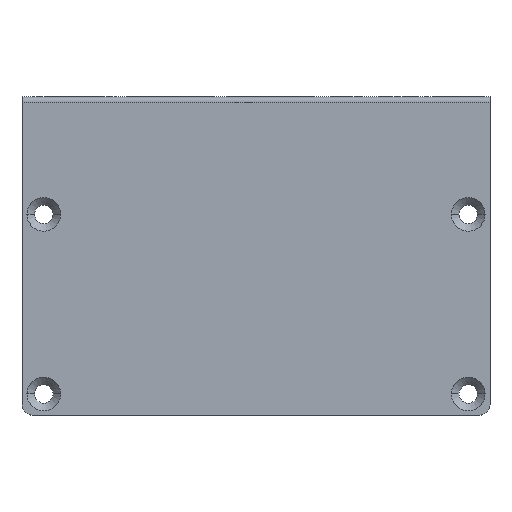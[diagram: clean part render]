
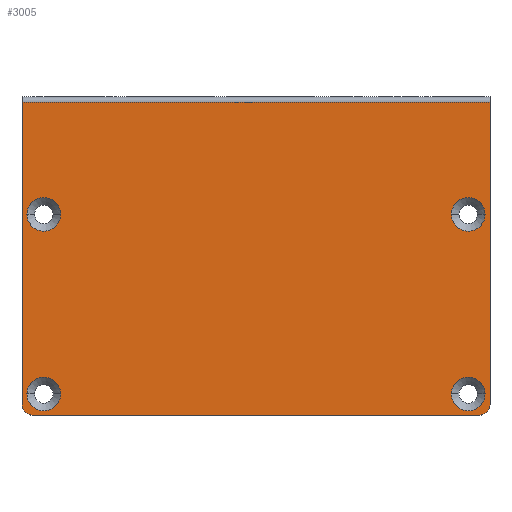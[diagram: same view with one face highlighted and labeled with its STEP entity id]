
A CAD part, top view. The second image highlights one B-rep face of the part: STEP entity #3005.
In plain terms, the highlighted planar face has unit normal (0, 0, 1).
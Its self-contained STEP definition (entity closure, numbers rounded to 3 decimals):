
#1 = LINE ( 'NONE', #1299, #1943 ) ;
#9 = CARTESIAN_POINT ( 'NONE',  ( -0.4, 36.5, -1.7 ) ) ;
#38 = EDGE_CURVE ( 'NONE', #259, #1478, #1691, .T. ) ;
#41 = EDGE_LOOP ( 'NONE', ( #3960, #348 ) ) ;
#212 = CARTESIAN_POINT ( 'NONE',  ( -81.5, 3.5, -1.7 ) ) ;
#259 = VERTEX_POINT ( 'NONE', #3451 ) ;
#283 = CIRCLE ( 'NONE', #4124, 3.1 ) ;
#288 = CIRCLE ( 'NONE', #1994, 3.1 ) ;
#290 = EDGE_CURVE ( 'NONE', #1318, #3235, #3506, .T. ) ;
#301 = ORIENTED_EDGE ( 'NONE', *, *, #1207, .F. ) ;
#310 = EDGE_LOOP ( 'NONE', ( #1547, #1997 ) ) ;
#348 = ORIENTED_EDGE ( 'NONE', *, *, #290, .F. ) ;
#361 = FACE_BOUND ( 'NONE', #41, .T. ) ;
#466 = CARTESIAN_POINT ( 'NONE',  ( -84.6, 36.5, -1.7 ) ) ;
#583 = VERTEX_POINT ( 'NONE', #1400 ) ;
#585 = DIRECTION ( 'NONE',  ( -1., 0., 0. ) ) ;
#598 = EDGE_CURVE ( 'NONE', #2937, #1425, #3602, .T. ) ;
#611 = DIRECTION ( 'NONE',  ( 1., 0., 0. ) ) ;
#613 = AXIS2_PLACEMENT_3D ( 'NONE', #3362, #3099, #4035 ) ;
#638 = VECTOR ( 'NONE', #585, 1000. ) ;
#675 = EDGE_CURVE ( 'NONE', #1909, #2994, #3757, .T. ) ;
#714 = VECTOR ( 'NONE', #3739, 1000. ) ;
#736 = CARTESIAN_POINT ( 'NONE',  ( 0.5, 1.6, -1.7 ) ) ;
#759 = CARTESIAN_POINT ( 'NONE',  ( -6.6, 36.5, -1.7 ) ) ;
#772 = DIRECTION ( 'NONE',  ( 1., 0., 0. ) ) ;
#857 = EDGE_CURVE ( 'NONE', #2994, #1909, #3010, .T. ) ;
#879 = FACE_BOUND ( 'NONE', #1240, .T. ) ;
#892 = DIRECTION ( 'NONE',  ( 0., 0., 1. ) ) ;
#907 = DIRECTION ( 'NONE',  ( 0., 0., 1. ) ) ;
#1001 = CARTESIAN_POINT ( 'NONE',  ( -84.6, 3.5, -1.7 ) ) ;
#1069 = CARTESIAN_POINT ( 'NONE',  ( -0.4, 3.5, -1.7 ) ) ;
#1077 = DIRECTION ( 'NONE',  ( 0., 0., 1. ) ) ;
#1105 = CARTESIAN_POINT ( 'NONE',  ( -3.5, 36.5, -1.7 ) ) ;
#1142 = LINE ( 'NONE', #3758, #714 ) ;
#1192 = CIRCLE ( 'NONE', #3719, 3.1 ) ;
#1207 = EDGE_CURVE ( 'NONE', #2361, #2672, #3285, .T. ) ;
#1239 = EDGE_CURVE ( 'NONE', #3518, #4147, #3912, .T. ) ;
#1240 = EDGE_LOOP ( 'NONE', ( #301, #2525 ) ) ;
#1282 = ORIENTED_EDGE ( 'NONE', *, *, #857, .F. ) ;
#1299 = CARTESIAN_POINT ( 'NONE',  ( 0.5, -0.4, -1.7 ) ) ;
#1318 = VERTEX_POINT ( 'NONE', #466 ) ;
#1374 = DIRECTION ( 'NONE',  ( 0., 0., 1. ) ) ;
#1400 = CARTESIAN_POINT ( 'NONE',  ( 0.5, 57.1, -1.7 ) ) ;
#1401 = EDGE_LOOP ( 'NONE', ( #4120, #1282 ) ) ;
#1425 = VERTEX_POINT ( 'NONE', #736 ) ;
#1478 = VERTEX_POINT ( 'NONE', #2445 ) ;
#1518 = AXIS2_PLACEMENT_3D ( 'NONE', #3993, #2662, #2706 ) ;
#1547 = ORIENTED_EDGE ( 'NONE', *, *, #1239, .F. ) ;
#1594 = CARTESIAN_POINT ( 'NONE',  ( 0., 57.1, -1.7 ) ) ;
#1611 = DIRECTION ( 'NONE',  ( 1., 0., 0. ) ) ;
#1671 = FACE_BOUND ( 'NONE', #310, .T. ) ;
#1691 = CIRCLE ( 'NONE', #2221, 2. ) ;
#1696 = EDGE_CURVE ( 'NONE', #3235, #1318, #283, .T. ) ;
#1899 = DIRECTION ( 'NONE',  ( 1., 0., 0. ) ) ;
#1909 = VERTEX_POINT ( 'NONE', #2976 ) ;
#1915 = DIRECTION ( 'NONE',  ( 0., -1., 0. ) ) ;
#1923 = DIRECTION ( 'NONE',  ( 0., 0., 1. ) ) ;
#1943 = VECTOR ( 'NONE', #2582, 1000. ) ;
#1961 = EDGE_CURVE ( 'NONE', #2672, #2361, #288, .T. ) ;
#1974 = ORIENTED_EDGE ( 'NONE', *, *, #3904, .F. ) ;
#1994 = AXIS2_PLACEMENT_3D ( 'NONE', #4176, #907, #611 ) ;
#1997 = ORIENTED_EDGE ( 'NONE', *, *, #3640, .F. ) ;
#2024 = VERTEX_POINT ( 'NONE', #3813 ) ;
#2034 = CARTESIAN_POINT ( 'NONE',  ( -1.5, 1.6, -1.7 ) ) ;
#2046 = CARTESIAN_POINT ( 'NONE',  ( -6.6, 3.5, -1.7 ) ) ;
#2049 = ORIENTED_EDGE ( 'NONE', *, *, #3160, .T. ) ;
#2078 = DIRECTION ( 'NONE',  ( 0., 0., 1. ) ) ;
#2221 = AXIS2_PLACEMENT_3D ( 'NONE', #2395, #2078, #772 ) ;
#2234 = LINE ( 'NONE', #3547, #4214 ) ;
#2292 = DIRECTION ( 'NONE',  ( 1., 0., 0. ) ) ;
#2304 = ORIENTED_EDGE ( 'NONE', *, *, #598, .T. ) ;
#2353 = DIRECTION ( 'NONE',  ( 0., 0., 1. ) ) ;
#2361 = VERTEX_POINT ( 'NONE', #1069 ) ;
#2362 = CARTESIAN_POINT ( 'NONE',  ( -78.4, 36.5, -1.7 ) ) ;
#2395 = CARTESIAN_POINT ( 'NONE',  ( -83.5, 1.6, -1.7 ) ) ;
#2442 = DIRECTION ( 'NONE',  ( 1., 0., 0. ) ) ;
#2445 = CARTESIAN_POINT ( 'NONE',  ( -83.5, -0.4, -1.7 ) ) ;
#2512 = PLANE ( 'NONE',  #2829 ) ;
#2525 = ORIENTED_EDGE ( 'NONE', *, *, #1961, .F. ) ;
#2582 = DIRECTION ( 'NONE',  ( -1., 0., 0. ) ) ;
#2583 = CARTESIAN_POINT ( 'NONE',  ( -1.5, -0.4, -1.7 ) ) ;
#2640 = ORIENTED_EDGE ( 'NONE', *, *, #4170, .F. ) ;
#2662 = DIRECTION ( 'NONE',  ( 0., 0., 1. ) ) ;
#2672 = VERTEX_POINT ( 'NONE', #2046 ) ;
#2692 = ORIENTED_EDGE ( 'NONE', *, *, #4061, .F. ) ;
#2706 = DIRECTION ( 'NONE',  ( 1., 0., 0. ) ) ;
#2723 = CARTESIAN_POINT ( 'NONE',  ( -3.5, 36.5, -1.7 ) ) ;
#2792 = FACE_OUTER_BOUND ( 'NONE', #3673, .T. ) ;
#2829 = AXIS2_PLACEMENT_3D ( 'NONE', #4011, #1077, #2442 ) ;
#2879 = AXIS2_PLACEMENT_3D ( 'NONE', #2723, #1374, #3972 ) ;
#2907 = CARTESIAN_POINT ( 'NONE',  ( -81.5, 36.5, -1.7 ) ) ;
#2937 = VERTEX_POINT ( 'NONE', #2583 ) ;
#2976 = CARTESIAN_POINT ( 'NONE',  ( -78.4, 3.5, -1.7 ) ) ;
#2994 = VERTEX_POINT ( 'NONE', #1001 ) ;
#3005 = ADVANCED_FACE ( 'NONE', ( #3288, #361, #1671, #879, #2792 ), #2512, .T. ) ;
#3010 = CIRCLE ( 'NONE', #4045, 3.1 ) ;
#3099 = DIRECTION ( 'NONE',  ( 0., 0., 1. ) ) ;
#3160 = EDGE_CURVE ( 'NONE', #583, #2024, #3237, .T. ) ;
#3198 = DIRECTION ( 'NONE',  ( 1., 0., 0. ) ) ;
#3235 = VERTEX_POINT ( 'NONE', #2362 ) ;
#3237 = LINE ( 'NONE', #1594, #638 ) ;
#3285 = CIRCLE ( 'NONE', #1518, 3.1 ) ;
#3288 = FACE_BOUND ( 'NONE', #1401, .T. ) ;
#3303 = AXIS2_PLACEMENT_3D ( 'NONE', #3864, #1923, #1611 ) ;
#3362 = CARTESIAN_POINT ( 'NONE',  ( -81.5, 3.5, -1.7 ) ) ;
#3451 = CARTESIAN_POINT ( 'NONE',  ( -85.5, 1.6, -1.7 ) ) ;
#3506 = CIRCLE ( 'NONE', #3303, 3.1 ) ;
#3518 = VERTEX_POINT ( 'NONE', #9 ) ;
#3547 = CARTESIAN_POINT ( 'NONE',  ( 0.5, 57.1, -1.7 ) ) ;
#3602 = CIRCLE ( 'NONE', #4083, 2. ) ;
#3640 = EDGE_CURVE ( 'NONE', #4147, #3518, #1192, .T. ) ;
#3668 = DIRECTION ( 'NONE',  ( 0., 0., 1. ) ) ;
#3673 = EDGE_LOOP ( 'NONE', ( #2640, #3832, #1974, #2304, #2692, #2049 ) ) ;
#3701 = DIRECTION ( 'NONE',  ( 1., 0., 0. ) ) ;
#3719 = AXIS2_PLACEMENT_3D ( 'NONE', #1105, #2353, #3701 ) ;
#3739 = DIRECTION ( 'NONE',  ( 0., 1., 0. ) ) ;
#3757 = CIRCLE ( 'NONE', #613, 3.1 ) ;
#3758 = CARTESIAN_POINT ( 'NONE',  ( -85.5, 0., -1.7 ) ) ;
#3813 = CARTESIAN_POINT ( 'NONE',  ( -85.5, 57.1, -1.7 ) ) ;
#3832 = ORIENTED_EDGE ( 'NONE', *, *, #38, .T. ) ;
#3852 = DIRECTION ( 'NONE',  ( 0., 0., 1. ) ) ;
#3864 = CARTESIAN_POINT ( 'NONE',  ( -81.5, 36.5, -1.7 ) ) ;
#3904 = EDGE_CURVE ( 'NONE', #2937, #1478, #1, .T. ) ;
#3912 = CIRCLE ( 'NONE', #2879, 3.1 ) ;
#3960 = ORIENTED_EDGE ( 'NONE', *, *, #1696, .F. ) ;
#3972 = DIRECTION ( 'NONE',  ( 1., 0., 0. ) ) ;
#3993 = CARTESIAN_POINT ( 'NONE',  ( -3.5, 3.5, -1.7 ) ) ;
#4011 = CARTESIAN_POINT ( 'NONE',  ( 0., 0., -1.7 ) ) ;
#4035 = DIRECTION ( 'NONE',  ( 1., 0., 0. ) ) ;
#4045 = AXIS2_PLACEMENT_3D ( 'NONE', #212, #892, #1899 ) ;
#4061 = EDGE_CURVE ( 'NONE', #583, #1425, #2234, .T. ) ;
#4083 = AXIS2_PLACEMENT_3D ( 'NONE', #2034, #3668, #2292 ) ;
#4120 = ORIENTED_EDGE ( 'NONE', *, *, #675, .F. ) ;
#4124 = AXIS2_PLACEMENT_3D ( 'NONE', #2907, #3852, #3198 ) ;
#4147 = VERTEX_POINT ( 'NONE', #759 ) ;
#4170 = EDGE_CURVE ( 'NONE', #259, #2024, #1142, .T. ) ;
#4176 = CARTESIAN_POINT ( 'NONE',  ( -3.5, 3.5, -1.7 ) ) ;
#4214 = VECTOR ( 'NONE', #1915, 1000. ) ;
